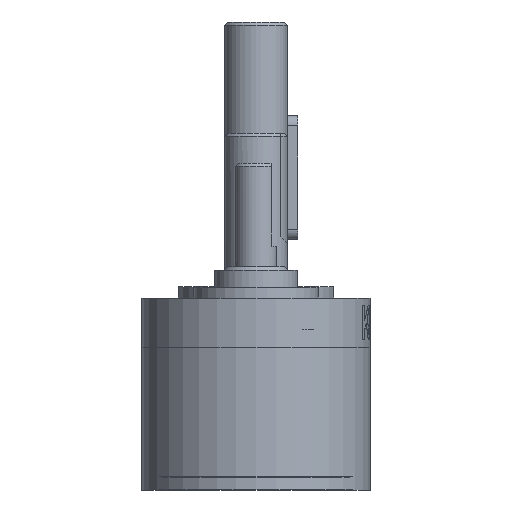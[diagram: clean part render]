
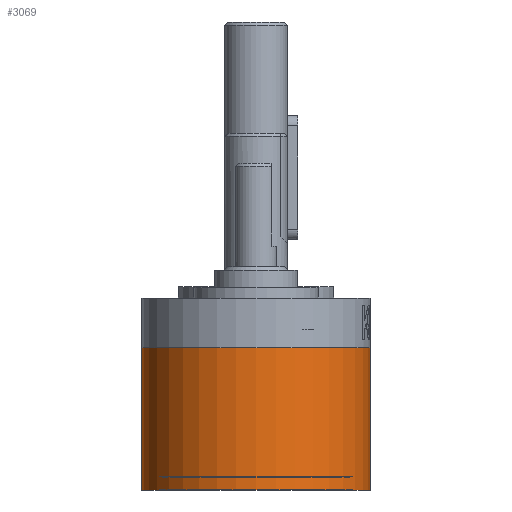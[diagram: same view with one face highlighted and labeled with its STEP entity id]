
A CAD part, left-side view. The second image highlights one B-rep face of the part: STEP entity #3069.
In plain terms, the highlighted cylindrical face has radius 11 mm (diameter 22 mm), a full revolution.
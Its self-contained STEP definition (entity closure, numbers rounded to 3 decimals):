
#2005=FACE_BOUND('',#4742,.T.);
#2006=FACE_BOUND('',#4743,.T.);
#2365=CYLINDRICAL_SURFACE('',#11499,11.);
#3069=ADVANCED_FACE('',(#2005,#2006),#2365,.T.);
#4742=EDGE_LOOP('',(#7601));
#4743=EDGE_LOOP('',(#7602));
#5345=CIRCLE('',#11497,11.);
#5346=CIRCLE('',#11498,11.);
#7601=ORIENTED_EDGE('',*,*,#9951,.F.);
#7602=ORIENTED_EDGE('',*,*,#9952,.T.);
#8833=VERTEX_POINT('',#28840);
#8834=VERTEX_POINT('',#28842);
#9951=EDGE_CURVE('',#8833,#8833,#5345,.T.);
#9952=EDGE_CURVE('',#8834,#8834,#5346,.T.);
#11497=AXIS2_PLACEMENT_3D('',#28839,#13392,#13393);
#11498=AXIS2_PLACEMENT_3D('',#28841,#13394,#13395);
#11499=AXIS2_PLACEMENT_3D('',#28843,#13396,#13397);
#13392=DIRECTION('',(0.,0.,-1.));
#13393=DIRECTION('',(1.,0.,0.));
#13394=DIRECTION('',(0.,0.,-1.));
#13395=DIRECTION('',(1.,0.,0.));
#13396=DIRECTION('',(0.,0.,1.));
#13397=DIRECTION('',(1.,0.,0.));
#28839=CARTESIAN_POINT('',(-24.,0.,0.));
#28840=CARTESIAN_POINT('',(-13.,0.,0.));
#28841=CARTESIAN_POINT('',(-24.,0.,13.699));
#28842=CARTESIAN_POINT('',(-13.,0.,13.699));
#28843=CARTESIAN_POINT('',(-24.,0.,13.3));
